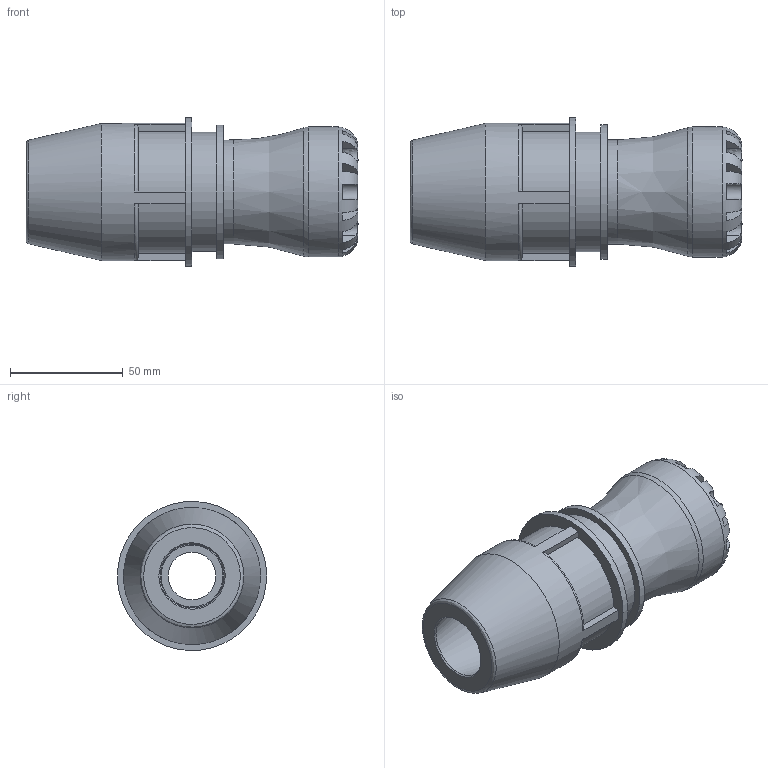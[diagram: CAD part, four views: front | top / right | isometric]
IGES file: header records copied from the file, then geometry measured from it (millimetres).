
Global section: file name: 100170032028; native system: Autodesk Inventor 2019; preprocessor: unknown; author: KIM; date: 20230831.103345; units: millimetre
Bounding box: 147 x 66 x 65.95 mm (x, y, z)
Volume: 225484.9 mm3; surface area: 49627.4 mm2
Topology: 1 solids, 1 shells, 110 faces, 296 edges, 195 vertices
Faces by surface type: bspline 110
